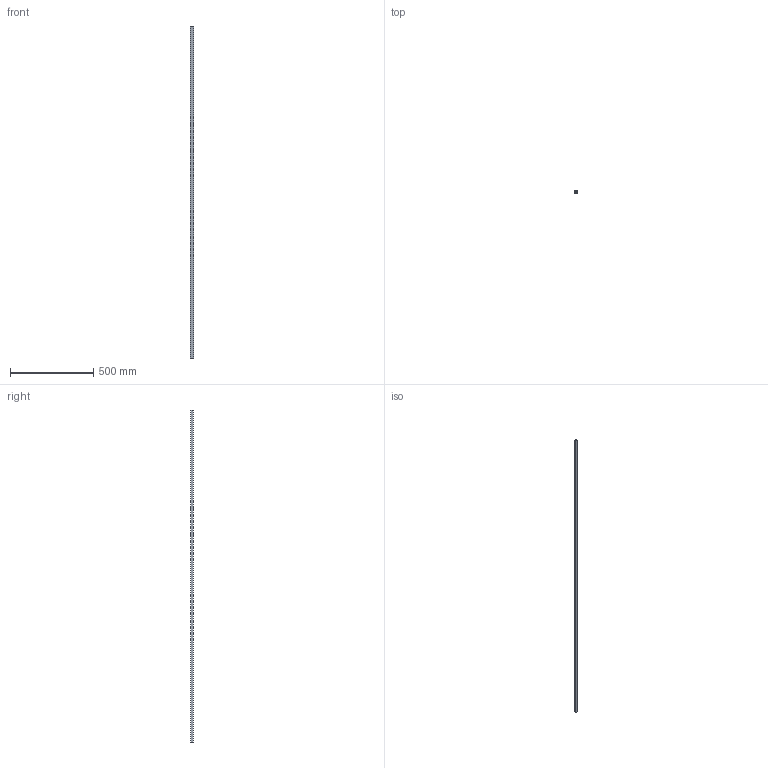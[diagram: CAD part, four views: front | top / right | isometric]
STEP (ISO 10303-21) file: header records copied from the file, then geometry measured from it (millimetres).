
FILE_DESCRIPTION (( 'STEP AP214' ), '1' );
FILE_NAME ('R8.STEP', '2024-01-24T10:09:32', ( '' ), ( '' ), 'SwSTEP 2.0', 'SolidWorks 2022', '' );
FILE_SCHEMA (( 'AUTOMOTIVE_DESIGN' ));
Length unit declared in the file: millimetre
Products named in the file (1): R8
Bounding box: 20 x 14 x 2000 mm (x, y, z)
Volume: 450618.4 mm3; surface area: 162751.6 mm2
Topology: 1 solids, 1 shells, 14 faces, 36 edges, 24 vertices
Faces by surface type: plane 11, cylinder 3
Entity records: 460 total; most frequent: CARTESIAN_POINT 75, DIRECTION 72, ORIENTED_EDGE 72, EDGE_CURVE 36, LINE 30, VECTOR 30, VERTEX_POINT 24, AXIS2_PLACEMENT_3D 21
